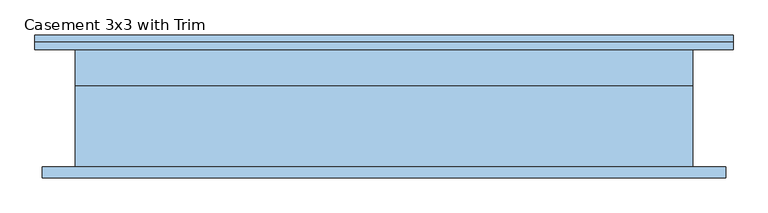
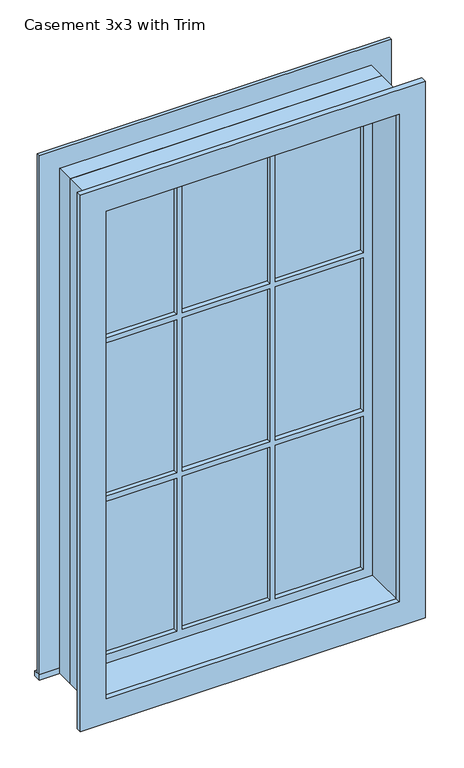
"""IFC4 building model written with IfcOpenShell, lengths in millimetres: window geometry."""

import ifcopenshell
import ifcopenshell.guid

model = None  # the IFC model being written
_history = None  # IfcOwnerHistory: only IFC2X3 demands one
_inside = {}  # id of a spatial element -> (the spatial element, [elements in it])
_under = {}  # id of a project, library or spatial element -> (it, [spatial elements below it])
_declared = {}  # id of a project -> (the project, [libraries it declares])
_typed = {}  # id of a type object -> (the type object, [elements of that type])
_made_of = {}  # id of a material, layer set ... -> (it, [elements and type objects made of it])


def new_model(schema):
    """Start an empty IFC model of exactly this schema.

    Asked for "IFC4X3", IfcOpenShell would pick the latest addendum, in which some entities
    have other attributes; the version numbers below select the first issue.
    IFC2X3 requires an IfcOwnerHistory on every rooted entity: one is made here for all.
    """
    global model, _history
    if schema == "IFC4X3":
        model = ifcopenshell.file(schema_version=(4, 3, 0, 0))
    else:
        model = ifcopenshell.file(schema=schema)
    _inside.clear()
    _under.clear()
    _declared.clear()
    _typed.clear()
    _made_of.clear()
    _history = None
    if model.schema == "IFC2X3":
        org = make("IfcOrganization", Name="unknown")
        user = make(
            "IfcPersonAndOrganization",
            ThePerson=make("IfcPerson", FamilyName="unknown"),
            TheOrganization=org,
        )
        app = make(
            "IfcApplication",
            ApplicationDeveloper=org,
            Version="unknown",
            ApplicationFullName="unknown",
            ApplicationIdentifier="unknown",
        )
        _history = make(
            "IfcOwnerHistory",
            OwningUser=user,
            OwningApplication=app,
            ChangeAction="ADDED",
            CreationDate=0,
        )
    return model


def make(cls, **values):
    """One entity of the class cls with the attributes given. An attribute that is None is left unset."""
    return model.create_entity(
        cls, **{name: value for name, value in values.items() if value is not None}
    )


def rooted(cls, **values):
    """An entity with a GlobalId (a new one), such as an element, a storey or a relation."""
    return make(cls, GlobalId=ifcopenshell.guid.new(), OwnerHistory=_history, **values)


def si_unit(unit_type, name, prefix=None):
    """IfcSIUnit, for example si_unit("LENGTHUNIT", "METRE", prefix="MILLI")."""
    return make("IfcSIUnit", UnitType=unit_type, Prefix=prefix, Name=name)


def assignment(units):
    """IfcUnitAssignment: the units of a project."""
    return None if units is None else make("IfcUnitAssignment", Units=units)


def point(xyz):
    """IfcCartesianPoint."""
    return None if xyz is None else make("IfcCartesianPoint", Coordinates=xyz)


def direction(xyz):
    """IfcDirection."""
    return None if xyz is None else make("IfcDirection", DirectionRatios=xyz)


def frame(location, z_axis=None, x_axis=None):
    """IfcAxis2Placement3D, a coordinate frame: its origin and axes. An axis left out is left unset."""
    return make(
        "IfcAxis2Placement3D",
        Location=point(location),
        Axis=direction(z_axis),
        RefDirection=direction(x_axis),
    )


def origin():
    """The frame at (0, 0, 0) with its axes left unset."""
    return frame((0.0, 0.0, 0.0))


def place(relative_to, where):
    """IfcLocalPlacement: puts the frame where relative to a parent placement (None: the world)."""
    return make(
        "IfcLocalPlacement", PlacementRelTo=relative_to, RelativePlacement=where
    )


def context(
    kind, dimensions, precision=None, world=None, true_north=None, identifier=None
):
    """IfcGeometricRepresentationContext, for example the 3D "Model" context."""
    return make(
        "IfcGeometricRepresentationContext",
        ContextIdentifier=identifier,
        ContextType=kind,
        CoordinateSpaceDimension=dimensions,
        Precision=precision,
        WorldCoordinateSystem=world,
        TrueNorth=true_north,
    )


def project(units=None, contexts=None):
    """IfcProject with its units and contexts."""
    return rooted(
        "IfcProject",
        Name="project",
        RepresentationContexts=contexts,
        UnitsInContext=assignment(units),
    )


def spatial(cls, under=None, at=None, **own):
    """A site, building, storey or space (cls), placed at a placement, below another one or the project."""
    s = rooted(cls, ObjectPlacement=at, **own)
    if under is not None:
        _under.setdefault(under.id(), (under, []))[1].append(s)
    return s


def polyline(points):
    """IfcPolyline through the points."""
    return make("IfcPolyline", Points=[point(p) for p in points])


def outline(outer, holes=None, kind="AREA"):
    """IfcArbitraryClosedProfileDef: a profile drawn as a closed curve; with holes, ...WithVoids."""
    if holes is None:
        return make("IfcArbitraryClosedProfileDef", ProfileType=kind, OuterCurve=outer)
    return make(
        "IfcArbitraryProfileDefWithVoids",
        ProfileType=kind,
        OuterCurve=outer,
        InnerCurves=holes,
    )


def extrude(swept, where, along, depth):
    """IfcExtrudedAreaSolid: the profile swept, set in the frame where, extruded along a direction by depth."""
    return make(
        "IfcExtrudedAreaSolid",
        SweptArea=swept,
        Position=where,
        ExtrudedDirection=direction(along),
        Depth=depth,
    )


def shape(context_of_items, identifier, shape_type, items):
    """IfcShapeRepresentation: the items that make up one representation, for example the "Body"."""
    return make(
        "IfcShapeRepresentation",
        ContextOfItems=context_of_items,
        RepresentationIdentifier=identifier,
        RepresentationType=shape_type,
        Items=items,
    )


def source(mapping_origin, context_of_items, identifier, shape_type, items):
    """IfcRepresentationMap: a shape defined once, which mapped items show again and again."""
    return make(
        "IfcRepresentationMap",
        MappingOrigin=mapping_origin,
        MappedRepresentation=shape(context_of_items, identifier, shape_type, items),
    )


def transform(
    local_origin,
    x_axis=None,
    y_axis=None,
    z_axis=None,
    scale=None,
    scale2=None,
    scale3=None,
    uniform=True,
):
    """IfcCartesianTransformationOperator3D, or its non-uniform kind. x_axis, y_axis, z_axis: its Axis1, 2, 3."""
    if uniform:
        return make(
            "IfcCartesianTransformationOperator3D",
            Axis1=direction(x_axis),
            Axis2=direction(y_axis),
            LocalOrigin=point(local_origin),
            Scale=scale,
            Axis3=direction(z_axis),
        )
    return make(
        "IfcCartesianTransformationOperator3DnonUniform",
        Axis1=direction(x_axis),
        Axis2=direction(y_axis),
        LocalOrigin=point(local_origin),
        Scale=scale,
        Axis3=direction(z_axis),
        Scale2=scale2,
        Scale3=scale3,
    )


def mapped(mapping_source, mapping_target):
    """IfcMappedItem: shows the shape of a source again, moved by a transform."""
    return make(
        "IfcMappedItem", MappingSource=mapping_source, MappingTarget=mapping_target
    )


def made_of(thing, what):
    """Note that an element or type object is made of a material, layer set ...; save() writes the relation."""
    if what is not None:
        _made_of.setdefault(what.id(), (what, []))[1].append(thing)
    return thing


def element(
    cls,
    number,
    at=None,
    inside=None,
    cuts=None,
    type_object=None,
    material=None,
    context=None,
    identifier="Body",
    shape_type=None,
    held_by="IfcProductDefinitionShape",
    body=None,
    shapes=None,
    **own,
):
    """One element of the class cls, such as IfcWall. Its Tag is "e" and its number.

    at: its placement. inside: the storey or other place that contains it. cuts: it is an
    opening in that element (IfcRelVoidsElement). A single representation is given by context,
    identifier, shape_type and body (its items); several are given by shapes. held_by: the class
    of the entity that holds the representations. save() writes the other relations.
    """
    e = rooted(cls, Tag="e%d" % number, ObjectPlacement=at, **own)
    if body is not None:
        shapes = [shape(context, identifier, shape_type, body)]
    if shapes is not None:
        e.Representation = make(held_by, Representations=shapes)
    if inside is not None:
        _inside.setdefault(inside.id(), (inside, []))[1].append(e)
    if cuts is not None:
        rooted(
            "IfcRelVoidsElement", RelatingBuildingElement=cuts, RelatedOpeningElement=e
        )
    if type_object is not None:
        _typed.setdefault(type_object.id(), (type_object, []))[1].append(e)
    return made_of(e, material)


def aggregate(whole, parts):
    """IfcRelAggregates: a whole, such as a stair, and the parts it consists of."""
    return rooted("IfcRelAggregates", RelatingObject=whole, RelatedObjects=parts)


def save(model, path):
    """Write the relations noted so far, then the file.

    IfcRelAggregates (storeys below a building ...), IfcRelContainedInSpatialStructure (elements
    in a storey), IfcRelDefinesByType, IfcRelAssociatesMaterial and IfcRelDeclares: one each for
    every whole, place, type object, material and project.
    """
    for whole, parts in _under.values():
        aggregate(whole, parts)
    for where, things in _inside.values():
        rooted(
            "IfcRelContainedInSpatialStructure",
            RelatedElements=things,
            RelatingStructure=where,
        )
    for kind, things in _typed.values():
        rooted("IfcRelDefinesByType", RelatedObjects=things, RelatingType=kind)
    for what, things in _made_of.values():
        rooted("IfcRelAssociatesMaterial", RelatedObjects=things, RelatingMaterial=what)
    for by, libraries in _declared.values():
        rooted("IfcRelDeclares", RelatingContext=by, RelatedDefinitions=libraries)
    model.write(path)


def casement_3x3_with_trim_7d330b5e(model_context):
    return source(origin(), model_context, "Body", "SweptSolid", [
        extrude(outline(polyline([(-603.25, 127.0), (603.25, 127.0), (603.25, 101.6), (-603.25, 101.6), (-603.25, 127.0)])), frame((0.0, 0.0, 304.8), z_axis=(0.0, 0.0, 1.0), x_axis=(1.0, 0.0, 0.0)), (0.0, 0.0, 1.0), 19.05),
        extrude(outline(polyline([(2114.55, -514.35), (2114.55, 514.35), (323.85, 514.35), (323.85, 603.25), (2203.45, 603.25), (2203.45, -603.25), (323.85, -603.25), (323.85, -514.35), (2114.55, -514.35)])), frame((0.0, 101.6, 0.0), z_axis=(0.0, 1.0, 0.0), x_axis=(0.0, 0.0, 1.0)), (0.0, 0.0, 1.0), 12.7),
        extrude(outline(polyline([(169.3333333, 66.675), (469.9, 66.675), (469.9, 53.975), (169.3333333, 53.975), (169.3333333, 66.675)])), frame((0.0, 0.0, 1515.5333333), z_axis=(0.0, 0.0, 1.0), x_axis=(1.0, 0.0, 0.0)), (0.0, 0.0, 1.0), 554.5666667),
        extrude(outline(polyline([(-150.2833333, 66.675), (150.2833333, 66.675), (150.2833333, 53.975), (-150.2833333, 53.975), (-150.2833333, 66.675)])), frame((0.0, 0.0, 1515.5333333), z_axis=(0.0, 0.0, 1.0), x_axis=(1.0, 0.0, 0.0)), (0.0, 0.0, 1.0), 554.5666667),
        extrude(outline(polyline([(-469.9, 66.675), (-169.3333333, 66.675), (-169.3333333, 53.975), (-469.9, 53.975), (-469.9, 66.675)])), frame((0.0, 0.0, 1515.5333333), z_axis=(0.0, 0.0, 1.0), x_axis=(1.0, 0.0, 0.0)), (0.0, 0.0, 1.0), 554.5666667),
        extrude(outline(polyline([(-469.9, 66.675), (-169.3333333, 66.675), (-169.3333333, 53.975), (-469.9, 53.975), (-469.9, 66.675)])), frame((0.0, 0.0, 941.9166667), z_axis=(0.0, 0.0, 1.0), x_axis=(1.0, 0.0, 0.0)), (0.0, 0.0, 1.0), 554.5666667),
        extrude(outline(polyline([(-150.2833333, 66.675), (150.2833333, 66.675), (150.2833333, 53.975), (-150.2833333, 53.975), (-150.2833333, 66.675)])), frame((0.0, 0.0, 941.9166667), z_axis=(0.0, 0.0, 1.0), x_axis=(1.0, 0.0, 0.0)), (0.0, 0.0, 1.0), 554.5666667),
        extrude(outline(polyline([(169.3333333, 66.675), (469.9, 66.675), (469.9, 53.975), (169.3333333, 53.975), (169.3333333, 66.675)])), frame((0.0, 0.0, 941.9166667), z_axis=(0.0, 0.0, 1.0), x_axis=(1.0, 0.0, 0.0)), (0.0, 0.0, 1.0), 554.5666667),
        extrude(outline(polyline([(169.3333333, 66.675), (469.9, 66.675), (469.9, 53.975), (169.3333333, 53.975), (169.3333333, 66.675)])), frame((0.0, 0.0, 368.3), z_axis=(0.0, 0.0, 1.0), x_axis=(1.0, 0.0, 0.0)), (0.0, 0.0, 1.0), 554.5666667),
        extrude(outline(polyline([(-150.2833333, 66.675), (150.2833333, 66.675), (150.2833333, 53.975), (-150.2833333, 53.975), (-150.2833333, 66.675)])), frame((0.0, 0.0, 368.3), z_axis=(0.0, 0.0, 1.0), x_axis=(1.0, 0.0, 0.0)), (0.0, 0.0, 1.0), 554.5666667),
        extrude(outline(polyline([(-469.9, 66.675), (-169.3333333, 66.675), (-169.3333333, 53.975), (-469.9, 53.975), (-469.9, 66.675)])), frame((0.0, 0.0, 368.3), z_axis=(0.0, 0.0, 1.0), x_axis=(1.0, 0.0, 0.0)), (0.0, 0.0, 1.0), 554.5666667),
        extrude(outline(polyline([(2190.75, 590.55), (2190.75, -590.55), (247.65, -590.55), (247.65, 590.55), (2190.75, 590.55)]), holes=[polyline([(2101.85, 501.65), (336.55, 501.65), (336.55, -501.65), (2101.85, -501.65), (2101.85, 501.65)])]), frame((0.0, -120.65, 0.0), z_axis=(0.0, 1.0, 0.0), x_axis=(0.0, 0.0, 1.0)), (0.0, 0.0, 1.0), 19.05),
        extrude(outline(polyline([(2114.55, -514.35), (323.85, -514.35), (323.85, 514.35), (2114.55, 514.35), (2114.55, -514.35)]), holes=[polyline([(2070.1, -169.3333333), (1515.5333333, -169.3333333), (1515.5333333, -469.9), (2070.1, -469.9), (2070.1, -169.3333333)]), polyline([(1496.4833333, -169.3333333), (941.9166667, -169.3333333), (941.9166667, -469.9), (1496.4833333, -469.9), (1496.4833333, -169.3333333)]), polyline([(922.8666667, -169.3333333), (368.3, -169.3333333), (368.3, -469.9), (922.8666667, -469.9), (922.8666667, -169.3333333)]), polyline([(2070.1, 150.2833333), (1515.5333333, 150.2833333), (1515.5333333, -150.2833333), (2070.1, -150.2833333), (2070.1, 150.2833333)]), polyline([(1496.4833333, 150.2833333), (941.9166667, 150.2833333), (941.9166667, -150.2833333), (1496.4833333, -150.2833333), (1496.4833333, 150.2833333)]), polyline([(922.8666667, 150.2833333), (368.3, 150.2833333), (368.3, -150.2833333), (922.8666667, -150.2833333), (922.8666667, 150.2833333)]), polyline([(2070.1, 469.9), (1515.5333333, 469.9), (1515.5333333, 169.3333333), (2070.1, 169.3333333), (2070.1, 469.9)]), polyline([(1496.4833333, 469.9), (941.9166667, 469.9), (941.9166667, 169.3333333), (1496.4833333, 169.3333333), (1496.4833333, 469.9)]), polyline([(922.8666667, 469.9), (368.3, 469.9), (368.3, 169.3333333), (922.8666667, 169.3333333), (922.8666667, 469.9)])]), frame((0.0, 38.1, 0.0), z_axis=(0.0, 1.0, 0.0), x_axis=(0.0, 0.0, 1.0)), (0.0, 0.0, 1.0), 44.45),
        extrude(outline(polyline([(2133.6, -533.4), (304.8, -533.4), (304.8, 533.4), (2133.6, 533.4), (2133.6, -533.4)]), holes=[polyline([(2101.85, -501.65), (2101.85, 501.65), (336.55, 501.65), (336.55, -501.65), (2101.85, -501.65)])]), frame((0.0, -101.6, 0.0), z_axis=(0.0, 1.0, 0.0), x_axis=(0.0, 0.0, 1.0)), (0.0, 0.0, 1.0), 139.7),
        extrude(outline(polyline([(2133.6, 533.4), (2133.6, -533.4), (304.8, -533.4), (304.8, 533.4), (2133.6, 533.4)]), holes=[polyline([(2114.55, 514.35), (323.85, 514.35), (323.85, -514.35), (2114.55, -514.35), (2114.55, 514.35)])]), frame((0.0, 38.1, 0.0), z_axis=(0.0, 1.0, 0.0), x_axis=(0.0, 0.0, 1.0)), (0.0, 0.0, 1.0), 63.5),
    ])


if __name__ == "__main__":
    model = new_model("IFC4")
    model_context = context("Model", 3, world=origin())
    ifc_project = project(units=[si_unit("LENGTHUNIT", "METRE", prefix="MILLI")], contexts=[model_context])
    site = spatial("IfcSite", under=ifc_project)
    building = spatial("IfcBuilding", under=site)
    placement = place(None, origin())
    casement_3x3_with_trim_shape = casement_3x3_with_trim_7d330b5e(model_context)
    element("IfcWindow", 1, ObjectType="Casement 3x3 with Trim : 48\"w x 72\"h", at=placement, inside=building, context=model_context, shape_type="MappedRepresentation", body=[
        mapped(casement_3x3_with_trim_shape, transform((0.0, 0.0, 0.0), x_axis=(1.0, 0.0, 0.0), y_axis=(0.0, 1.0, 0.0), z_axis=(0.0, 0.0, 1.0))),
    ])
    save(model, "model.ifc")
